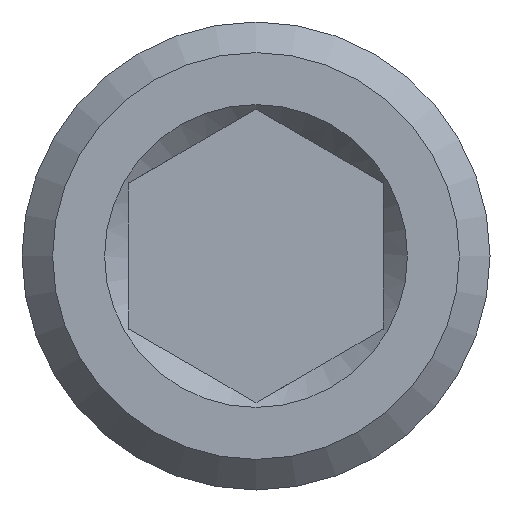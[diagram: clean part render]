
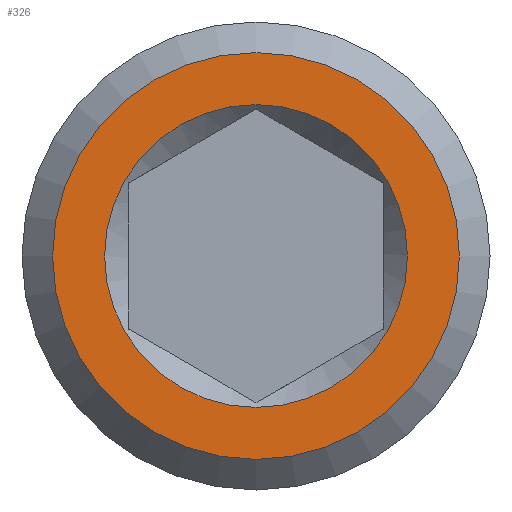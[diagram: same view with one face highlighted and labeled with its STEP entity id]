
A CAD part, front view. The second image highlights one B-rep face of the part: STEP entity #326.
In plain terms, the highlighted planar face has unit normal (0, -1, 0).
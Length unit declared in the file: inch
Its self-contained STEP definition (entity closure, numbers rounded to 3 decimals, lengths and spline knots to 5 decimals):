
#17=FACE_BOUND('',#107,.T.);
#85=FACE_OUTER_BOUND('',#106,.T.);
#106=EDGE_LOOP('',(#280));
#107=EDGE_LOOP('',(#281));
#126=CIRCLE('',#376,0.335);
#127=CIRCLE('',#378,0.45);
#157=VERTEX_POINT('',#577);
#158=VERTEX_POINT('',#581);
#199=EDGE_CURVE('',#157,#157,#126,.T.);
#200=EDGE_CURVE('',#158,#158,#127,.T.);
#280=ORIENTED_EDGE('',*,*,#200,.F.);
#281=ORIENTED_EDGE('',*,*,#199,.F.);
#309=PLANE('',#377);
#326=ADVANCED_FACE('',(#85,#17),#309,.T.);
#376=AXIS2_PLACEMENT_3D('',#579,#465,#466);
#377=AXIS2_PLACEMENT_3D('',#580,#467,#468);
#378=AXIS2_PLACEMENT_3D('',#582,#469,#470);
#465=DIRECTION('center_axis',(0.,-1.,0.));
#466=DIRECTION('ref_axis',(0.,0.,1.));
#467=DIRECTION('center_axis',(0.,-1.,0.));
#468=DIRECTION('ref_axis',(0.,0.,-1.));
#469=DIRECTION('center_axis',(0.,1.,0.));
#470=DIRECTION('ref_axis',(0.,0.,1.));
#577=CARTESIAN_POINT('',(0.,0.,-0.335));
#579=CARTESIAN_POINT('Origin',(0.,0.,0.));
#580=CARTESIAN_POINT('Origin',(0.,0.,-0.28));
#581=CARTESIAN_POINT('',(0.,0.,-0.45));
#582=CARTESIAN_POINT('Origin',(0.,0.,0.));
